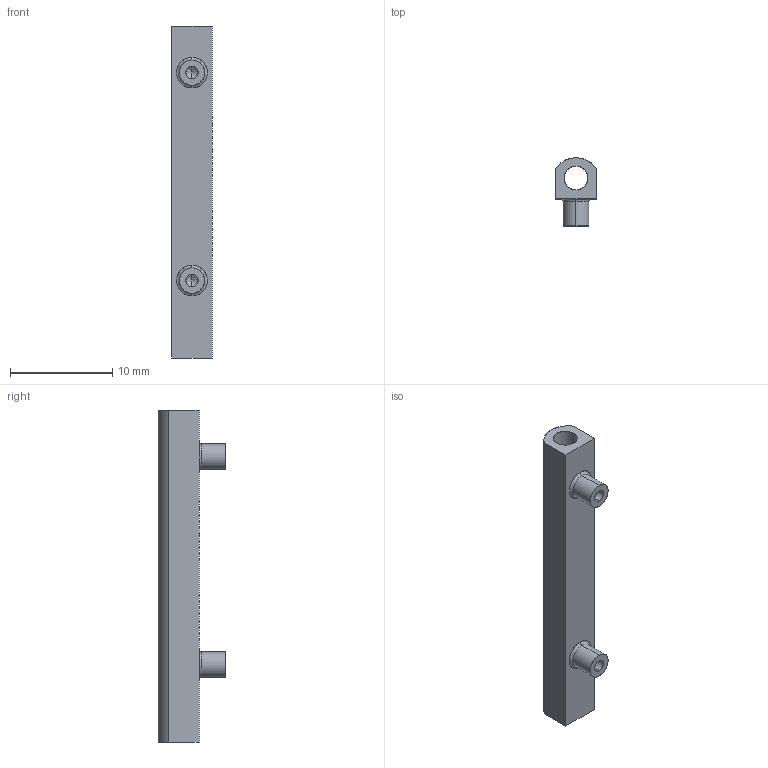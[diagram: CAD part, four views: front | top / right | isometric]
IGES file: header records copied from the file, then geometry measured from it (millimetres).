
Start section: SolidWorks IGES file using analytic representation for surfaces
Global section: file name: \\PSSILO\catalogs\CONTENTCENTRAL\Plunger Tube\Cache\B2F384B5-4ED6-46AE-983E-7C4946DA67B0.IGS; native system: SolidWorks 2009; preprocessor: SolidWorks 2009; author: partstream; date: 090716.111215; units: inch
Bounding box: 4.01 x 6.65 x 32.51 mm (x, y, z)
Surface area: 825.1 mm2 (no closed solid volume)
Topology: 0 solids, 0 shells, 29 faces, 406 edges, 402 vertices
Faces by surface type: revolution 17, bspline 12
